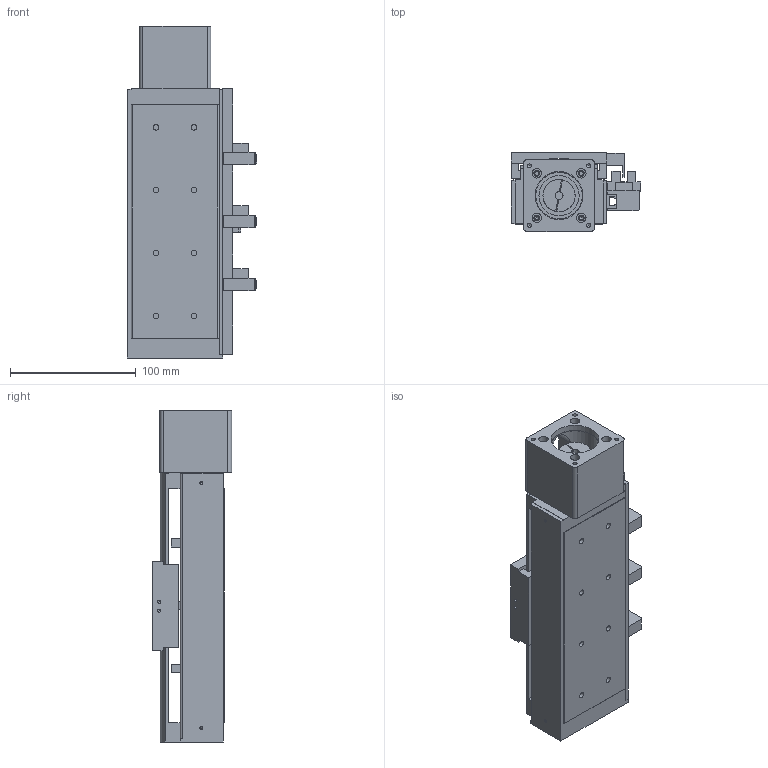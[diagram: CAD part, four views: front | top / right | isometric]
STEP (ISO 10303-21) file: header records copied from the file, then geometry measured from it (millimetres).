
FILE_DESCRIPTION((''),'2;1');
FILE_NAME('E:\uia actuator\UIA actuator 3d- 2009\Standard ball screw actuator\UIA076R9DC\UIA076R9DC-STEP file\with motor mount\UIA076R9DC step file 18Apr16\UIA076R9DC-100-R1205(or R1210)-M23-P13-C10-S.stp','2016-04-18T17:19:30',('h029'),(''),'Autodesk Inventor 11','Autodesk Inventor 11','');
FILE_SCHEMA(('AUTOMOTIVE_DESIGN { 1 0 10303 214 1 1 1 1 }'));
Length unit declared in the file: millimetre
Products named in the file (10): UIA076R9DC-100-R1205(or R1210)-M23-P13-C10-S; UIA076R9DC-100-BODY; UIA076R9DC-100-sensor rail; UIA076R9DC-CARRIAGE; UIA076R9DC-SENSOR FLAG; 01-100 0110 Motor MOUNT-M23; SOH-25C; SOH-25C-2; SOH-25C-3; SOH-25C-1
Assembly tree (9 placements, depth 3):
  UIA076R9DC-100-R1205(or R1210)-M23-P13-C10-S
    UIA076R9DC-100-BODY
    UIA076R9DC-100-sensor rail
    UIA076R9DC-CARRIAGE
    UIA076R9DC-SENSOR FLAG
    01-100 0110 Motor MOUNT-M23
    SOH-25C
      SOH-25C-2
      SOH-25C-3
      SOH-25C-1
Bounding box: 103 x 63 x 264 mm (x, y, z)
Volume: 507704.3 mm3; surface area: 188251.4 mm2
Topology: 8 solids, 8 shells, 404 faces, 1143 edges, 752 vertices
Faces by surface type: plane 283, cylinder 93, cone 21, bspline 7
Full cylindrical faces by diameter (mm): 2.459 x8, 3 x2, 3.242 x16, 3.5 x4, 4 x6, 4.5 x12, 6 x2, 7.5 x12, 22 x1, 25.5 x3, 32 x1, 37 x1, 38.1 x1
Entity records: 12986 total; most frequent: CARTESIAN_POINT 2600, DIRECTION 2050, ORIENTED_EDGE 2000, EDGE_CURVE 1000, VECTOR 760, LINE 760, VERTEX_POINT 705, AXIS2_PLACEMENT_3D 645
